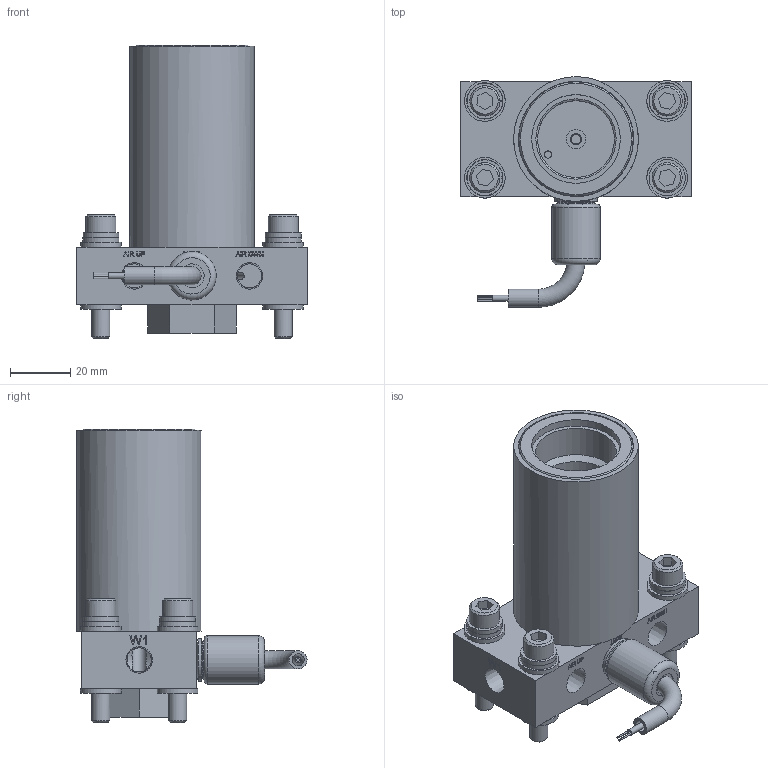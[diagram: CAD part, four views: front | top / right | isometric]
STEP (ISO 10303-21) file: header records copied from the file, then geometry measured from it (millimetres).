
FILE_DESCRIPTION(/* description */ ('ASSY,BODY,VF,LVDT,SXKR4,NHP'),/* implementation_level */ '2;1');
FILE_NAME(/* name */ 'X:\ASSY,BODY,VF,LVDT,SXKR4,NHP_0001486869.stp',/* time_stamp */ '2021-04-13T13:04:02-04:00',/* author */ ('Simon.Britton'),/* organization */ (''),/* preprocessor_version */ 'ST-DEVELOPER v17',/* originating_system */ 'Autodesk Inventor 2019',/* authorisation */ '');
FILE_SCHEMA (('AUTOMOTIVE_DESIGN { 1 0 10303 214 3 1 1 }'));
Length unit declared in the file: millimetre
Products named in the file (1): ASSY,BODY,VF,LVDT,SXKR4,NHP
Bounding box: 76.2 x 76.2 x 97.11 mm (x, y, z)
Volume: 128558.5 mm3; surface area: 55919.1 mm2
Topology: 2 solids, 2 shells, 1156 faces, 3058 edges, 2020 vertices
Faces by surface type: plane 552, bspline 343, cylinder 181, cone 52, torus 16, sphere 12
Full cylindrical faces by diameter (mm): 0.5 x4, 0.55 x12, 2 x1, 2.381 x4, 3.15 x2, 3.251 x1, 3.81 x1, 4 x3, 4.763 x5, 6 x10, 6.35 x9, 6.5 x4, 7.938 x4, 7.95 x5, 8 x1, 10 x5, 12 x4, 12.01 x1, 12.7 x3, 13.462 x8, 13.716 x1, 14 x2, 15.206 x1, 16 x1, 25.425 x1, 26.591 x1, 29.369 x1, 35.103 x4, 37.846 x4, 38.1 x2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
Entity records: 96423 total; most frequent: CARTESIAN_POINT 68701, ORIENTED_EDGE 6108, DIRECTION 4311, EDGE_CURVE 3054, VERTEX_POINT 2020, LINE 1483, VECTOR 1483, AXIS2_PLACEMENT_3D 1414
